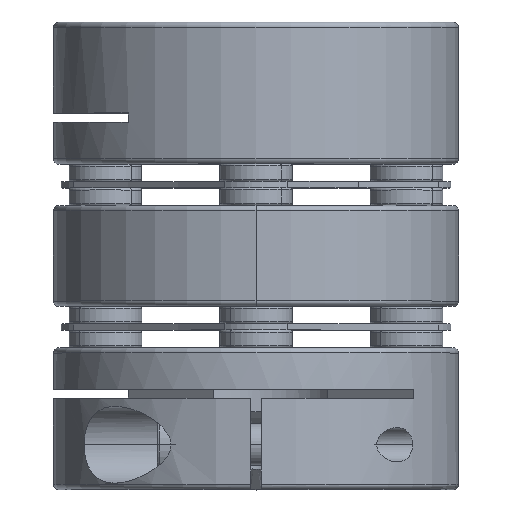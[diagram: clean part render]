
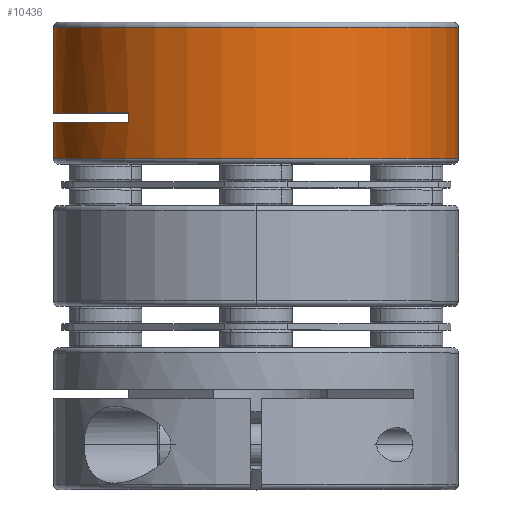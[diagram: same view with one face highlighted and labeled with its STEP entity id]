
A CAD part, top view. The second image highlights one B-rep face of the part: STEP entity #10436.
In plain terms, the highlighted cylindrical face has radius 19.5 mm (diameter 39 mm), a partial arc.
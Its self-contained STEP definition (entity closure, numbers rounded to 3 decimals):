
#3 = CARTESIAN_POINT ( 'NONE',  ( -19.5, 17.7, 0. ) ) ;
#22 = CARTESIAN_POINT ( 'NONE',  ( -19.5, 18.6, 0. ) ) ;
#103 = CARTESIAN_POINT ( 'NONE',  ( 19.5, 26.85, 0. ) ) ;
#130 = CARTESIAN_POINT ( 'NONE',  ( -19.5, 26.85, 0. ) ) ;
#1177 = CARTESIAN_POINT ( 'NONE',  ( -12.302, 17.7, 15.13 ) ) ;
#1178 = CARTESIAN_POINT ( 'NONE',  ( -12.302, 18.6, 15.13 ) ) ;
#1621 = AXIS2_PLACEMENT_3D ( 'NONE', #8429, #8430, #8432 ) ;
#1626 = AXIS2_PLACEMENT_3D ( 'NONE', #8435, #8437, #8438 ) ;
#1632 = AXIS2_PLACEMENT_3D ( 'NONE', #8443, #8444, #8446 ) ;
#1828 = AXIS2_PLACEMENT_3D ( 'NONE', #14770, #14771, #14773 ) ;
#2066 = ORIENTED_EDGE ( 'NONE', *, *, #12522, .F. ) ;
#2079 = ORIENTED_EDGE ( 'NONE', *, *, #12875, .T. ) ;
#2163 = ORIENTED_EDGE ( 'NONE', *, *, #12523, .F. ) ;
#2730 = ORIENTED_EDGE ( 'NONE', *, *, #12524, .T. ) ;
#2733 = ORIENTED_EDGE ( 'NONE', *, *, #13172, .F. ) ;
#2735 = ORIENTED_EDGE ( 'NONE', *, *, #13159, .T. ) ;
#2780 = ORIENTED_EDGE ( 'NONE', *, *, #13286, .T. ) ;
#3373 = ORIENTED_EDGE ( 'NONE', *, *, #13156, .F. ) ;
#3597 = LINE ( 'NONE', #13631, #3604 ) ;
#3601 = LINE ( 'NONE', #13672, #3607 ) ;
#3604 = VECTOR ( 'NONE', #13646, 1000. ) ;
#3607 = VECTOR ( 'NONE', #13769, 1000. ) ;
#3614 = LINE ( 'NONE', #13796, #3616 ) ;
#3616 = VECTOR ( 'NONE', #13801, 1000. ) ;
#3691 = CIRCLE ( 'NONE', #1828, 19.5 ) ;
#5730 = VERTEX_POINT ( 'NONE', #21856 ) ;
#5733 = VERTEX_POINT ( 'NONE', #21851 ) ;
#5907 = VERTEX_POINT ( 'NONE', #22 ) ;
#5925 = VERTEX_POINT ( 'NONE', #3 ) ;
#5979 = VERTEX_POINT ( 'NONE', #130 ) ;
#5997 = VERTEX_POINT ( 'NONE', #103 ) ;
#7556 = CIRCLE ( 'NONE', #1621, 19.5 ) ;
#7558 = CIRCLE ( 'NONE', #1626, 19.5 ) ;
#7559 = CIRCLE ( 'NONE', #1632, 19.5 ) ;
#7876 = LINE ( 'NONE', #12622, #7879 ) ;
#7879 = VECTOR ( 'NONE', #12624, 1000. ) ;
#8429 = CARTESIAN_POINT ( 'NONE',  ( 0., 17.7, 0. ) ) ;
#8430 = DIRECTION ( 'NONE',  ( 0., 1., 0. ) ) ;
#8432 = DIRECTION ( 'NONE',  ( 0., 0., -1. ) ) ;
#8435 = CARTESIAN_POINT ( 'NONE',  ( 0., 18.6, 0. ) ) ;
#8437 = DIRECTION ( 'NONE',  ( 0., -1., 0. ) ) ;
#8438 = DIRECTION ( 'NONE',  ( 0., 0., 1. ) ) ;
#8443 = CARTESIAN_POINT ( 'NONE',  ( 0., 14.2, 0. ) ) ;
#8444 = DIRECTION ( 'NONE',  ( 0., 1., 0. ) ) ;
#8446 = DIRECTION ( 'NONE',  ( 1., 0., 0. ) ) ;
#10436 = ADVANCED_FACE ( 'NONE', ( #16341 ), #16352, .T. ) ;
#12522 = EDGE_CURVE ( 'NONE', #5925, #19669, #7556, .T. ) ;
#12523 = EDGE_CURVE ( 'NONE', #19670, #5907, #7558, .T. ) ;
#12524 = EDGE_CURVE ( 'NONE', #5733, #5730, #7559, .T. ) ;
#12622 = CARTESIAN_POINT ( 'NONE',  ( -12.302, 13.7, 15.13 ) ) ;
#12624 = DIRECTION ( 'NONE',  ( 0., -1., 0. ) ) ;
#12875 = EDGE_CURVE ( 'NONE', #19670, #19669, #7876, .T. ) ;
#13156 = EDGE_CURVE ( 'NONE', #5907, #5979, #3597, .T. ) ;
#13159 = EDGE_CURVE ( 'NONE', #5730, #5997, #3601, .T. ) ;
#13172 = EDGE_CURVE ( 'NONE', #5733, #5925, #3614, .T. ) ;
#13286 = EDGE_CURVE ( 'NONE', #5997, #5979, #3691, .T. ) ;
#13631 = CARTESIAN_POINT ( 'NONE',  ( -19.5, 13.7, 0. ) ) ;
#13646 = DIRECTION ( 'NONE',  ( 0., 1., 0. ) ) ;
#13672 = CARTESIAN_POINT ( 'NONE',  ( 19.5, 13.7, 0. ) ) ;
#13769 = DIRECTION ( 'NONE',  ( 0., 1., 0. ) ) ;
#13796 = CARTESIAN_POINT ( 'NONE',  ( -19.5, 13.7, 0. ) ) ;
#13801 = DIRECTION ( 'NONE',  ( 0., 1., 0. ) ) ;
#14075 = AXIS2_PLACEMENT_3D ( 'NONE', #17470, #17475, #17476 ) ;
#14770 = CARTESIAN_POINT ( 'NONE',  ( 0., 26.85, 0. ) ) ;
#14771 = DIRECTION ( 'NONE',  ( 0., -1., 0. ) ) ;
#14773 = DIRECTION ( 'NONE',  ( 1., 0., 0. ) ) ;
#16341 = FACE_OUTER_BOUND ( 'NONE', #21596, .T. ) ;
#16352 = CYLINDRICAL_SURFACE ( 'NONE', #14075, 19.5 ) ;
#17470 = CARTESIAN_POINT ( 'NONE',  ( 0., 13.7, 0. ) ) ;
#17475 = DIRECTION ( 'NONE',  ( 0., 1., 0. ) ) ;
#17476 = DIRECTION ( 'NONE',  ( 1., 0., 0. ) ) ;
#19669 = VERTEX_POINT ( 'NONE', #1177 ) ;
#19670 = VERTEX_POINT ( 'NONE', #1178 ) ;
#21596 = EDGE_LOOP ( 'NONE', ( #2733, #2730, #2735, #2780, #3373, #2163, #2079, #2066 ) ) ;
#21851 = CARTESIAN_POINT ( 'NONE',  ( -19.5, 14.2, 0. ) ) ;
#21856 = CARTESIAN_POINT ( 'NONE',  ( 19.5, 14.2, 0. ) ) ;
